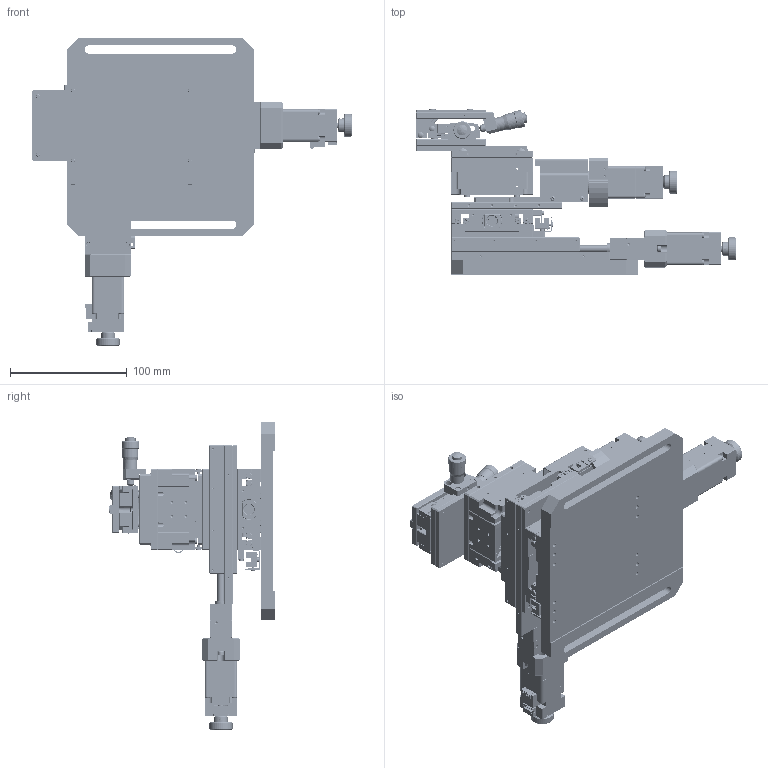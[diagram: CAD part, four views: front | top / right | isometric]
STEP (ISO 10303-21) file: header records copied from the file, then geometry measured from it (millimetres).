
FILE_DESCRIPTION (( 'STEP AP203' ), '1' );
FILE_NAME ('EW10-STR05.STEP', '2024-08-28T05:06:24', ( '' ), ( '' ), 'SwSTEP 2.0', 'SolidWorks 2017', '' );
FILE_SCHEMA (( 'CONFIG_CONTROL_DESIGN' ));
Length unit declared in the file: millimetre
Products named in the file (98): EW10-STR05-prt85; EW10-STR05-prt62; EW10-STR05-prt75; EW10-STR05-prt91; EW10-STR05-prt44; EW10-STR05-prt13; EW10-STR05-prt69; EW10-STR05-prt90; EW10-STR05-prt58; EW10-STR05-prt5; EW10-STR05-prt46; EW10-STR05-prt63; EW10-STR05-prt59; EW10-STR05-prt26; EW10-STR05-prt17; EW10-STR05-prt67; EW10-STR05-prt4; EW10-STR05-prt41; EW10-STR05-prt14; EW10-STR05-prt16; EW10-STR05-prt1; EW10-STR05-prt87; EW10-STR05-prt77; EW10-STR05-prt7; EW10-STR05-prt66; EW10-STR05-prt21; EW10-STR05-prt37; EW10-STR05-prt65; EW10-STR05-prt95; EW10-STR05-prt74; EW10-STR05-prt55; EW10-STR05-prt79; EW10-STR05-prt3; EW10-STR05-prt38; EW10-STR05-prt61; EW10-STR05-prt92; EW10-STR05-prt24; EW10-STR05-prt76; EW10-STR05-prt33; EW10-STR05-prt22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
Assembly tree (97 placements, depth 2):
  EW10-STR05
    EW10-STR05-prt0
    EW10-STR05-prt1
    EW10-STR05-prt2
    EW10-STR05-prt3
    EW10-STR05-prt4
    EW10-STR05-prt5
    EW10-STR05-prt6
    EW10-STR05-prt7
    EW10-STR05-prt8
    EW10-STR05-prt9
    EW10-STR05-prt10
    EW10-STR05-prt11
    EW10-STR05-prt12
    EW10-STR05-prt13
    EW10-STR05-prt14
    EW10-STR05-prt15
    EW10-STR05-prt16
    EW10-STR05-prt17
    EW10-STR05-prt18
    EW10-STR05-prt19
    EW10-STR05-prt20
    EW10-STR05-prt21
    EW10-STR05-prt22
    EW10-STR05-prt23
    EW10-STR05-prt24
    EW10-STR05-prt25
    EW10-STR05-prt26
    EW10-STR05-prt27
    EW10-STR05-prt28
    EW10-STR05-prt29
    EW10-STR05-prt30
    EW10-STR05-prt31
    EW10-STR05-prt32
    EW10-STR05-prt33
    EW10-STR05-prt34
    EW10-STR05-prt35
    EW10-STR05-prt36
    EW10-STR05-prt37
    EW10-STR05-prt38
    EW10-STR05-prt39
    EW10-STR05-prt40
    EW10-STR05-prt41
    EW10-STR05-prt42
    EW10-STR05-prt43
    EW10-STR05-prt44
    EW10-STR05-prt45
    EW10-STR05-prt46
    EW10-STR05-prt47
    EW10-STR05-prt48
    EW10-STR05-prt49
    EW10-STR05-prt50
    EW10-STR05-prt51
    EW10-STR05-prt52
    EW10-STR05-prt53
    EW10-STR05-prt54
    EW10-STR05-prt55
    EW10-STR05-prt56
    EW10-STR05-prt57
    EW10-STR05-prt58
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Bounding box: 273.9 x 141.4 x 263.9 mm (x, y, z)
Volume: 996092.9 mm3; surface area: 436225.4 mm2
Topology: 97 solids, 314 shells, 11876 faces, 29304 edges, 18223 vertices
Faces by surface type: plane 6743, cylinder 3330, bspline 1268, cone 298, torus 172, sphere 65
Entity records: 373900 total; most frequent: CARTESIAN_POINT 83929, DIRECTION 58156, ORIENTED_EDGE 57440, EDGE_CURVE 28720, AXIS2_PLACEMENT_3D 19889, LINE 18378, VECTOR 18378, VERTEX_POINT 18208
